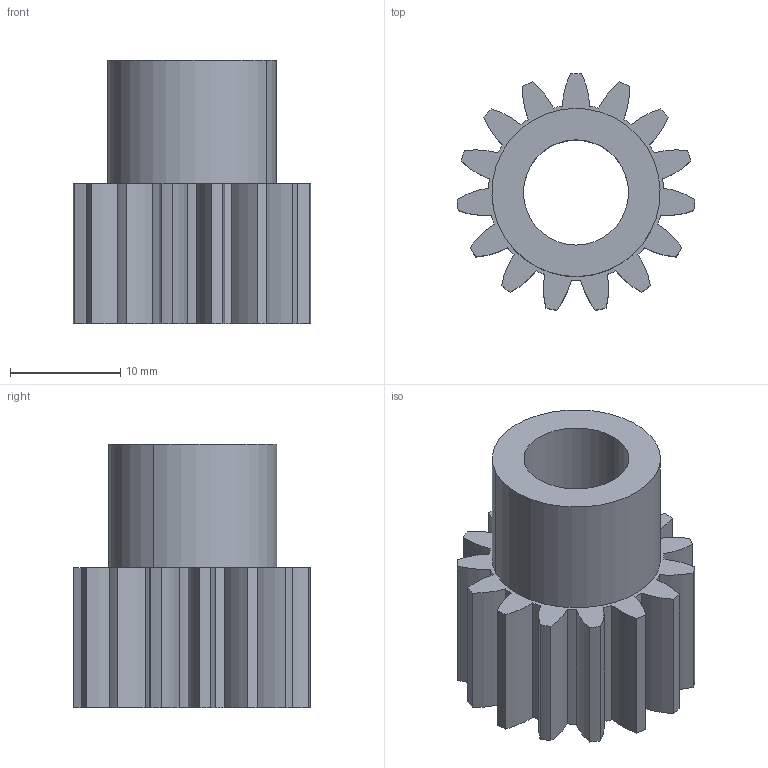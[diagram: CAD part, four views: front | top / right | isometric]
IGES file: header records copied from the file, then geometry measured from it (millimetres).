
Global section: file name: C:\Documents and Settings\Administrator\Desktop\Transfer Temp\gss-2015.igs; native system: AutoDesk Inventor R2.0 ; preprocessor: AutoDesk Inventor Iges Exporter R2.0; author: No Author specified; organization: No Organization specified; date: 20011226.195957; units: inch
Bounding box: 21.55 x 21.45 x 23.88 mm (x, y, z)
Surface area: 3186.4 mm2 (no closed solid volume)
Topology: 0 solids, 0 shells, 67 faces, 384 edges, 384 vertices
Faces by surface type: revolution 62, bspline 5
